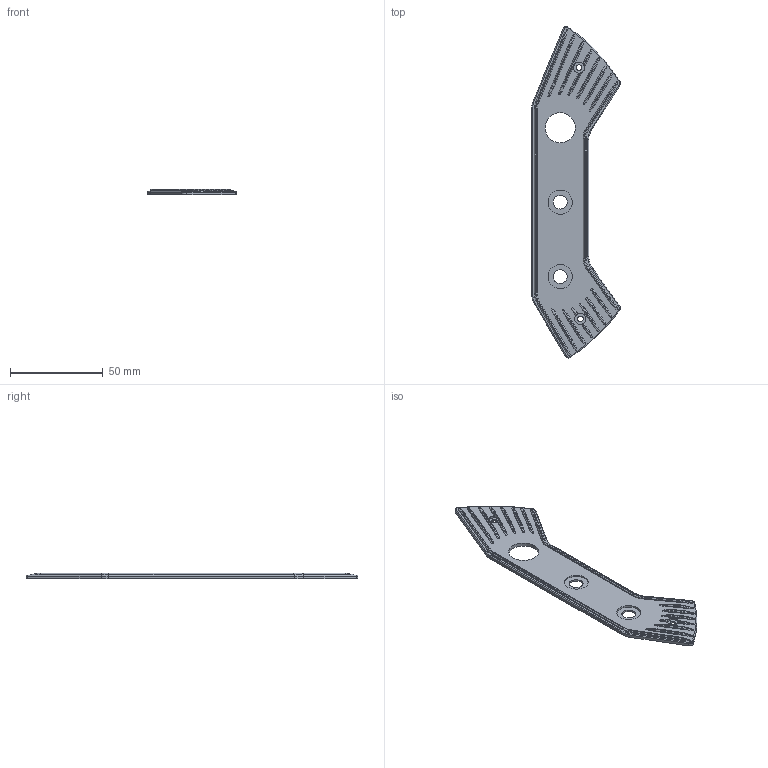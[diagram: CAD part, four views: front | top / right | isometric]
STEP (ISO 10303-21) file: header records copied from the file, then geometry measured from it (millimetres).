
FILE_DESCRIPTION(/* description */ (''),/* implementation_level */ '2;1');
FILE_NAME(/* name */ 'LAST_BASE 03.stp',/* time_stamp */ '2025-11-19T23:11:42+09:00',/* author */ (''),/* organization */ (''),/* preprocessor_version */ 'ST-DEVELOPER v11',/* originating_system */ 'SIEMENS PLM Software NX 7.5',/* authorisation */ '');
FILE_SCHEMA (('CONFIG_CONTROL_DESIGN'));
Length unit declared in the file: millimetre
Products named in the file (1): gyun8741ysfx
Bounding box: 47.64 x 178.51 x 3 mm (x, y, z)
Volume: 10984.7 mm3; surface area: 12316.6 mm2
Topology: 1 solids, 1 shells, 325 faces, 784 edges, 476 vertices
Faces by surface type: bspline 112, cylinder 71, plane 68, torus 46, cone 28
Full cylindrical faces by diameter (mm): 3 x2, 6 x2, 7.4 x2, 13 x2, 16.2 x1
Entity records: 12047 total; most frequent: CARTESIAN_POINT 5235, ORIENTED_EDGE 1542, DIRECTION 1214, EDGE_CURVE 771, AXIS2_PLACEMENT_3D 518, VERTEX_POINT 472, EDGE_LOOP 359, ADVANCED_FACE 325
